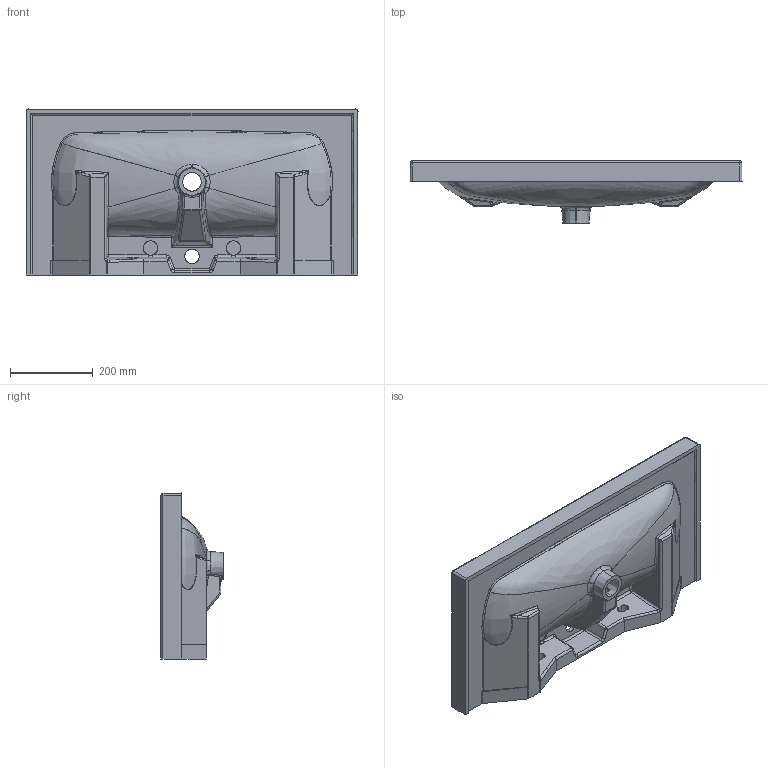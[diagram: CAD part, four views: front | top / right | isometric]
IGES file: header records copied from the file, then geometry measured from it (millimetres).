
Start section: SolidWorks IGES file using analytic representation for surfaces
Global section: file name: K:\lavabi tecla 3D IGS\c. EDO (1)\EDO8040x85ED02011.IGS; native system: SolidWorks 2013; preprocessor: SolidWorks 2013; author: UTENTE 1; date: 140521.170330; units: millimetre
Bounding box: 801.75 x 150 x 400.87 mm (x, y, z)
Surface area: 1102420.1 mm2 (no closed solid volume)
Topology: 0 solids, 0 shells, 235 faces, 3747 edges, 3735 vertices
Faces by surface type: bspline 132, revolution 103
